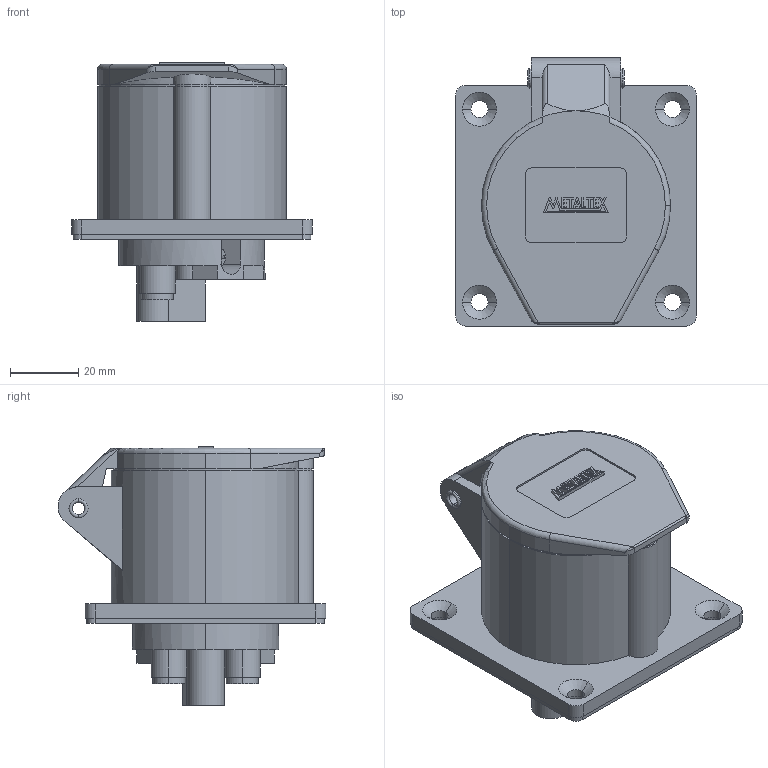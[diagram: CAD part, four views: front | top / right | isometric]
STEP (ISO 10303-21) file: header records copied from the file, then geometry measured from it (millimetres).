
FILE_DESCRIPTION (( 'STEP AP203' ), '1' );
FILE_NAME ('TLR16442..STEP', '2018-04-20T14:16:16', ( '' ), ( '' ), 'SwSTEP 2.0', 'SolidWorks 2012', '' );
FILE_SCHEMA (( 'CONFIG_CONTROL_DESIGN' ));
Length unit declared in the file: millimetre
Products named in the file (4): TLR16442; TLR16442.; METALTEX 18,98
Assembly tree (3 placements, depth 3):
  TLR16442.
    TLR16442
      TLR16442
      METALTEX 18,98
Bounding box: 70.5 x 78.42 x 75.8 mm (x, y, z)
Volume: 158656.2 mm3; surface area: 29311.2 mm2
Topology: 8 solids, 8 shells, 406 faces, 1022 edges, 671 vertices
Faces by surface type: plane 255, cylinder 130, cone 10, torus 9, bspline 2
Entity records: 13038 total; most frequent: CARTESIAN_POINT 2686, DIRECTION 2070, ORIENTED_EDGE 2040, EDGE_CURVE 1020, LINE 708, VECTOR 708, AXIS2_PLACEMENT_3D 681, VERTEX_POINT 671
